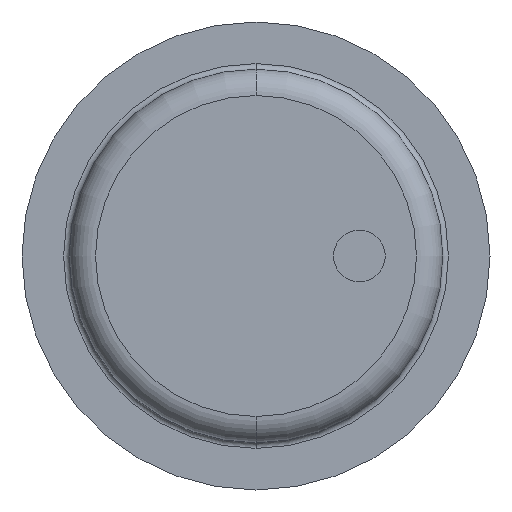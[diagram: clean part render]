
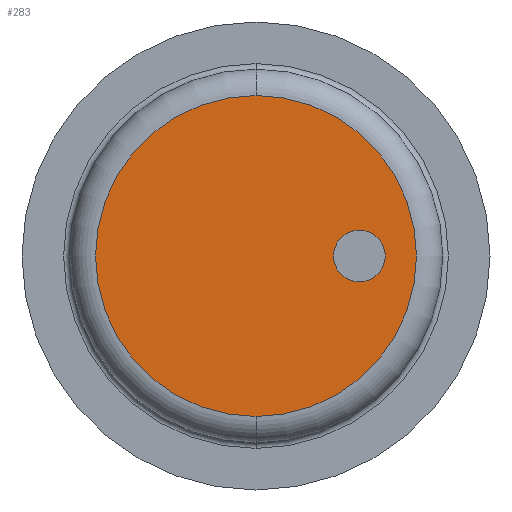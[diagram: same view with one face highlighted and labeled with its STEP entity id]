
A CAD part, front view. The second image highlights one B-rep face of the part: STEP entity #283.
In plain terms, the highlighted planar face has unit normal (0, -1, 0).
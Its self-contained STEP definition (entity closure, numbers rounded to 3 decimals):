
#283 = ADVANCED_FACE( '', ( #652, #653 ), #654, .T. );
#652 = FACE_BOUND( '', #1037, .T. );
#653 = FACE_OUTER_BOUND( '', #1038, .T. );
#654 = PLANE( '', #1039 );
#1037 = EDGE_LOOP( '', ( #2307, #2308 ) );
#1038 = EDGE_LOOP( '', ( #2309, #2310, #2311 ) );
#1039 = AXIS2_PLACEMENT_3D( '', #2312, #2313, #2314 );
#2307 = ORIENTED_EDGE( '', *, *, #2805, .T. );
#2308 = ORIENTED_EDGE( '', *, *, #2807, .T. );
#2309 = ORIENTED_EDGE( '', *, *, #2799, .F. );
#2310 = ORIENTED_EDGE( '', *, *, #2798, .F. );
#2311 = ORIENTED_EDGE( '', *, *, #2808, .F. );
#2312 = CARTESIAN_POINT( '', ( 132.688, -451., 0. ) );
#2313 = DIRECTION( '', ( 0., -1., 0. ) );
#2314 = DIRECTION( '', ( -1., 0., 0. ) );
#2798 = EDGE_CURVE( '', #3465, #3468, #3469, .T. );
#2799 = EDGE_CURVE( '', #3468, #3470, #3471, .T. );
#2805 = EDGE_CURVE( '', #3475, #3479, #3481, .T. );
#2807 = EDGE_CURVE( '', #3479, #3475, #3483, .T. );
#2808 = EDGE_CURVE( '', #3470, #3465, #3484, .T. );
#3465 = VERTEX_POINT( '', #4682 );
#3468 = VERTEX_POINT( '', #4685 );
#3469 = CIRCLE( '', #4686, 85.375 );
#3470 = VERTEX_POINT( '', #4687 );
#3471 = CIRCLE( '', #4688, 85.375 );
#3475 = VERTEX_POINT( '', #4692 );
#3479 = VERTEX_POINT( '', #4697 );
#3481 = CIRCLE( '', #4700, 13.75 );
#3483 = CIRCLE( '', #4702, 13.75 );
#3484 = CIRCLE( '', #4703, 85.375 );
#4682 = CARTESIAN_POINT( '', ( 90., -451., 85.375 ) );
#4685 = CARTESIAN_POINT( '', ( 175.375, -451., 0. ) );
#4686 = AXIS2_PLACEMENT_3D( '', #5599, #5600, #5601 );
#4687 = CARTESIAN_POINT( '', ( 90., -451., -85.375 ) );
#4688 = AXIS2_PLACEMENT_3D( '', #5602, #5603, #5604 );
#4692 = CARTESIAN_POINT( '', ( 158.75, -451., 0. ) );
#4697 = CARTESIAN_POINT( '', ( 131.25, -451., 0. ) );
#4700 = AXIS2_PLACEMENT_3D( '', #5616, #5617, #5618 );
#4702 = AXIS2_PLACEMENT_3D( '', #5622, #5623, #5624 );
#4703 = AXIS2_PLACEMENT_3D( '', #5625, #5626, #5627 );
#5599 = CARTESIAN_POINT( '', ( 90., -451., 0. ) );
#5600 = DIRECTION( '', ( 0., 1., 0. ) );
#5601 = DIRECTION( '', ( 1., 0., 0. ) );
#5602 = CARTESIAN_POINT( '', ( 90., -451., 0. ) );
#5603 = DIRECTION( '', ( 0., 1., 0. ) );
#5604 = DIRECTION( '', ( 1., 0., 0. ) );
#5616 = CARTESIAN_POINT( '', ( 145., -451., 0. ) );
#5617 = DIRECTION( '', ( 0., 1., 0. ) );
#5618 = DIRECTION( '', ( 1., 0., 0. ) );
#5622 = CARTESIAN_POINT( '', ( 145., -451., 0. ) );
#5623 = DIRECTION( '', ( 0., 1., 0. ) );
#5624 = DIRECTION( '', ( 1., 0., 0. ) );
#5625 = CARTESIAN_POINT( '', ( 90., -451., 0. ) );
#5626 = DIRECTION( '', ( 0., 1., 0. ) );
#5627 = DIRECTION( '', ( 1., 0., 0. ) );
